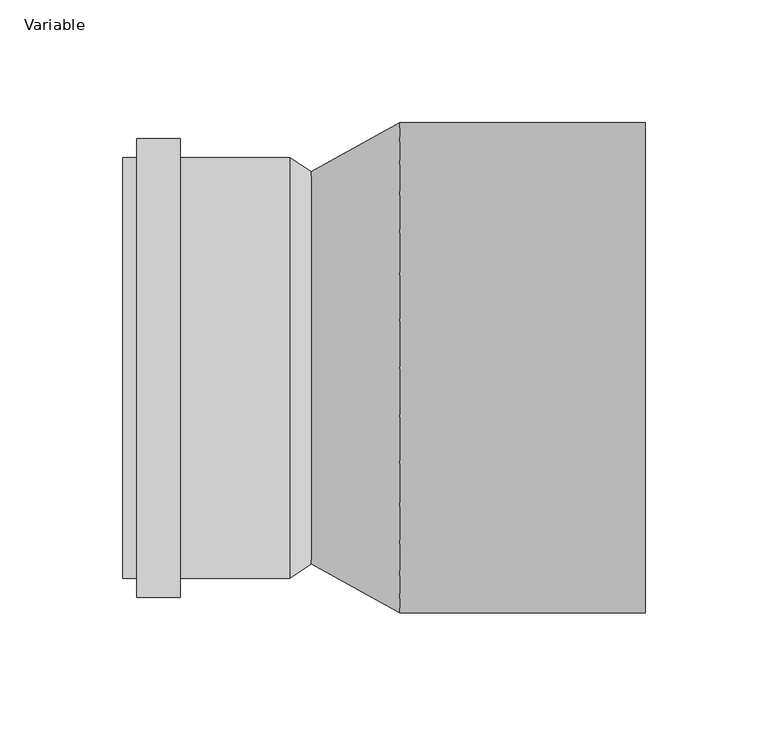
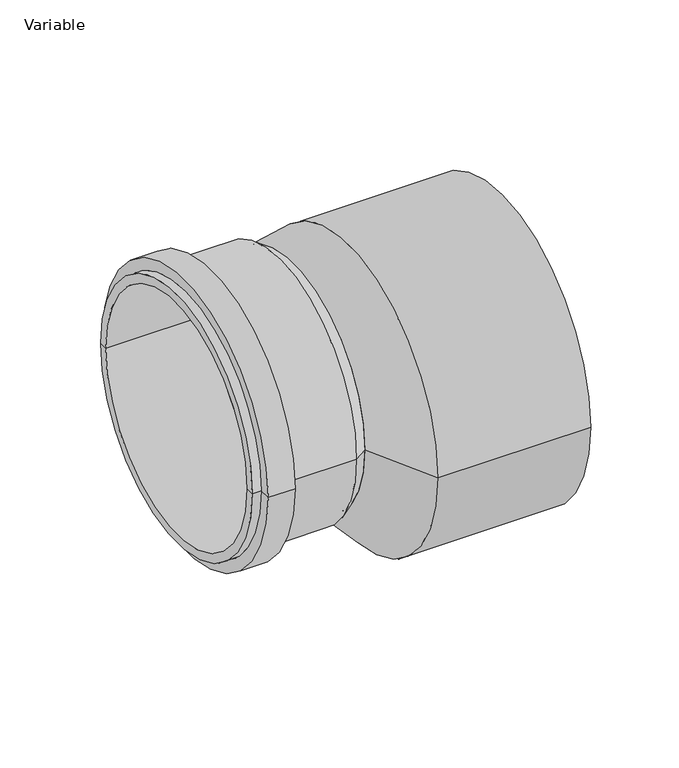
"""IFC4 building model written with IfcOpenShell, lengths in millimetres: pipe fitting geometry, AliaxisFR_Friaphon_Reducer_FR : Variable."""

import ifcopenshell
import ifcopenshell.guid

model = None  # the IFC model being written
_history = None  # IfcOwnerHistory: only IFC2X3 demands one
_inside = {}  # id of a spatial element -> (the spatial element, [elements in it])
_under = {}  # id of a project, library or spatial element -> (it, [spatial elements below it])
_declared = {}  # id of a project -> (the project, [libraries it declares])
_typed = {}  # id of a type object -> (the type object, [elements of that type])
_made_of = {}  # id of a material, layer set ... -> (it, [elements and type objects made of it])


def new_model(schema):
    """Start an empty IFC model of exactly this schema.

    Asked for "IFC4X3", IfcOpenShell would pick the latest addendum, in which some entities
    have other attributes; the version numbers below select the first issue.
    IFC2X3 requires an IfcOwnerHistory on every rooted entity: one is made here for all.
    """
    global model, _history
    if schema == "IFC4X3":
        model = ifcopenshell.file(schema_version=(4, 3, 0, 0))
    else:
        model = ifcopenshell.file(schema=schema)
    _inside.clear()
    _under.clear()
    _declared.clear()
    _typed.clear()
    _made_of.clear()
    _history = None
    if model.schema == "IFC2X3":
        org = make("IfcOrganization", Name="unknown")
        user = make(
            "IfcPersonAndOrganization",
            ThePerson=make("IfcPerson", FamilyName="unknown"),
            TheOrganization=org,
        )
        app = make(
            "IfcApplication",
            ApplicationDeveloper=org,
            Version="unknown",
            ApplicationFullName="unknown",
            ApplicationIdentifier="unknown",
        )
        _history = make(
            "IfcOwnerHistory",
            OwningUser=user,
            OwningApplication=app,
            ChangeAction="ADDED",
            CreationDate=0,
        )
    return model


def make(cls, **values):
    """One entity of the class cls with the attributes given. An attribute that is None is left unset."""
    return model.create_entity(
        cls, **{name: value for name, value in values.items() if value is not None}
    )


def rooted(cls, **values):
    """An entity with a GlobalId (a new one), such as an element, a storey or a relation."""
    return make(cls, GlobalId=ifcopenshell.guid.new(), OwnerHistory=_history, **values)


def si_unit(unit_type, name, prefix=None):
    """IfcSIUnit, for example si_unit("LENGTHUNIT", "METRE", prefix="MILLI")."""
    return make("IfcSIUnit", UnitType=unit_type, Prefix=prefix, Name=name)


def assignment(units):
    """IfcUnitAssignment: the units of a project."""
    return None if units is None else make("IfcUnitAssignment", Units=units)


def point(xyz):
    """IfcCartesianPoint."""
    return None if xyz is None else make("IfcCartesianPoint", Coordinates=xyz)


def direction(xyz):
    """IfcDirection."""
    return None if xyz is None else make("IfcDirection", DirectionRatios=xyz)


def frame(location, z_axis=None, x_axis=None):
    """IfcAxis2Placement3D, a coordinate frame: its origin and axes. An axis left out is left unset."""
    return make(
        "IfcAxis2Placement3D",
        Location=point(location),
        Axis=direction(z_axis),
        RefDirection=direction(x_axis),
    )


def frame_2d(location, x_axis=None):
    """IfcAxis2Placement2D, a coordinate frame in the plane: its origin and x axis."""
    return make(
        "IfcAxis2Placement2D", Location=point(location), RefDirection=direction(x_axis)
    )


def origin():
    """The frame at (0, 0, 0) with its axes left unset."""
    return frame((0.0, 0.0, 0.0))


def origin_2d():
    """The frame at (0, 0) in the plane with its x axis left unset."""
    return frame_2d((0.0, 0.0))


def place(relative_to, where):
    """IfcLocalPlacement: puts the frame where relative to a parent placement (None: the world)."""
    return make(
        "IfcLocalPlacement", PlacementRelTo=relative_to, RelativePlacement=where
    )


def context(
    kind, dimensions, precision=None, world=None, true_north=None, identifier=None
):
    """IfcGeometricRepresentationContext, for example the 3D "Model" context."""
    return make(
        "IfcGeometricRepresentationContext",
        ContextIdentifier=identifier,
        ContextType=kind,
        CoordinateSpaceDimension=dimensions,
        Precision=precision,
        WorldCoordinateSystem=world,
        TrueNorth=true_north,
    )


def project(units=None, contexts=None):
    """IfcProject with its units and contexts."""
    return rooted(
        "IfcProject",
        Name="project",
        RepresentationContexts=contexts,
        UnitsInContext=assignment(units),
    )


def spatial(cls, under=None, at=None, **own):
    """A site, building, storey or space (cls), placed at a placement, below another one or the project."""
    s = rooted(cls, ObjectPlacement=at, **own)
    if under is not None:
        _under.setdefault(under.id(), (under, []))[1].append(s)
    return s


def polyline(points):
    """IfcPolyline through the points."""
    return make("IfcPolyline", Points=[point(p) for p in points])


def circle_curve(where, radius):
    """IfcCircle in the frame where."""
    return make("IfcCircle", Position=where, Radius=radius)


def trimmed(basis, trim1, trim2, sense, master):
    """IfcTrimmedCurve: the piece of a basis curve between two trims."""
    return make(
        "IfcTrimmedCurve",
        BasisCurve=basis,
        Trim1=trim1,
        Trim2=trim2,
        SenseAgreement=sense,
        MasterRepresentation=master,
    )


def segment(curve, same_sense, transition):
    """IfcCompositeCurveSegment."""
    return make(
        "IfcCompositeCurveSegment",
        Transition=transition,
        SameSense=same_sense,
        ParentCurve=curve,
    )


def composite_curve(segments, self_intersect=None):
    """IfcCompositeCurve: segments joined end to end."""
    return make("IfcCompositeCurve", Segments=segments, SelfIntersect=self_intersect)


def outline(outer, holes=None, kind="AREA"):
    """IfcArbitraryClosedProfileDef: a profile drawn as a closed curve; with holes, ...WithVoids."""
    if holes is None:
        return make("IfcArbitraryClosedProfileDef", ProfileType=kind, OuterCurve=outer)
    return make(
        "IfcArbitraryProfileDefWithVoids",
        ProfileType=kind,
        OuterCurve=outer,
        InnerCurves=holes,
    )


def extrude(swept, where, along, depth):
    """IfcExtrudedAreaSolid: the profile swept, set in the frame where, extruded along a direction by depth."""
    return make(
        "IfcExtrudedAreaSolid",
        SweptArea=swept,
        Position=where,
        ExtrudedDirection=direction(along),
        Depth=depth,
    )


def shape(context_of_items, identifier, shape_type, items):
    """IfcShapeRepresentation: the items that make up one representation, for example the "Body"."""
    return make(
        "IfcShapeRepresentation",
        ContextOfItems=context_of_items,
        RepresentationIdentifier=identifier,
        RepresentationType=shape_type,
        Items=items,
    )


def source(mapping_origin, context_of_items, identifier, shape_type, items):
    """IfcRepresentationMap: a shape defined once, which mapped items show again and again."""
    return make(
        "IfcRepresentationMap",
        MappingOrigin=mapping_origin,
        MappedRepresentation=shape(context_of_items, identifier, shape_type, items),
    )


def transform(
    local_origin,
    x_axis=None,
    y_axis=None,
    z_axis=None,
    scale=None,
    scale2=None,
    scale3=None,
    uniform=True,
):
    """IfcCartesianTransformationOperator3D, or its non-uniform kind. x_axis, y_axis, z_axis: its Axis1, 2, 3."""
    if uniform:
        return make(
            "IfcCartesianTransformationOperator3D",
            Axis1=direction(x_axis),
            Axis2=direction(y_axis),
            LocalOrigin=point(local_origin),
            Scale=scale,
            Axis3=direction(z_axis),
        )
    return make(
        "IfcCartesianTransformationOperator3DnonUniform",
        Axis1=direction(x_axis),
        Axis2=direction(y_axis),
        LocalOrigin=point(local_origin),
        Scale=scale,
        Axis3=direction(z_axis),
        Scale2=scale2,
        Scale3=scale3,
    )


def mapped(mapping_source, mapping_target):
    """IfcMappedItem: shows the shape of a source again, moved by a transform."""
    return make(
        "IfcMappedItem", MappingSource=mapping_source, MappingTarget=mapping_target
    )


def made_of(thing, what):
    """Note that an element or type object is made of a material, layer set ...; save() writes the relation."""
    if what is not None:
        _made_of.setdefault(what.id(), (what, []))[1].append(thing)
    return thing


def element(
    cls,
    number,
    at=None,
    inside=None,
    cuts=None,
    type_object=None,
    material=None,
    context=None,
    identifier="Body",
    shape_type=None,
    held_by="IfcProductDefinitionShape",
    body=None,
    shapes=None,
    **own,
):
    """One element of the class cls, such as IfcWall. Its Tag is "e" and its number.

    at: its placement. inside: the storey or other place that contains it. cuts: it is an
    opening in that element (IfcRelVoidsElement). A single representation is given by context,
    identifier, shape_type and body (its items); several are given by shapes. held_by: the class
    of the entity that holds the representations. save() writes the other relations.
    """
    e = rooted(cls, Tag="e%d" % number, ObjectPlacement=at, **own)
    if body is not None:
        shapes = [shape(context, identifier, shape_type, body)]
    if shapes is not None:
        e.Representation = make(held_by, Representations=shapes)
    if inside is not None:
        _inside.setdefault(inside.id(), (inside, []))[1].append(e)
    if cuts is not None:
        rooted(
            "IfcRelVoidsElement", RelatingBuildingElement=cuts, RelatedOpeningElement=e
        )
    if type_object is not None:
        _typed.setdefault(type_object.id(), (type_object, []))[1].append(e)
    return made_of(e, material)


def aggregate(whole, parts):
    """IfcRelAggregates: a whole, such as a stair, and the parts it consists of."""
    return rooted("IfcRelAggregates", RelatingObject=whole, RelatedObjects=parts)


def save(model, path):
    """Write the relations noted so far, then the file.

    IfcRelAggregates (storeys below a building ...), IfcRelContainedInSpatialStructure (elements
    in a storey), IfcRelDefinesByType, IfcRelAssociatesMaterial and IfcRelDeclares: one each for
    every whole, place, type object, material and project.
    """
    for whole, parts in _under.values():
        aggregate(whole, parts)
    for where, things in _inside.values():
        rooted(
            "IfcRelContainedInSpatialStructure",
            RelatedElements=things,
            RelatingStructure=where,
        )
    for kind, things in _typed.values():
        rooted("IfcRelDefinesByType", RelatedObjects=things, RelatingType=kind)
    for what, things in _made_of.values():
        rooted("IfcRelAssociatesMaterial", RelatedObjects=things, RelatingMaterial=what)
    for by, libraries in _declared.values():
        rooted("IfcRelDeclares", RelatingContext=by, RelatedDefinitions=libraries)
    model.write(path)


def plane_surface(at):
    """IfcPlane: the flat surface through the origin of the frame at, square to its z axis."""
    return make("IfcPlane", Position=at)


def cylinder_surface(at, radius):
    """IfcCylindricalSurface: all points at the distance radius from the z axis of the frame at."""
    return make("IfcCylindricalSurface", Position=at, Radius=radius)


def revolved_surface(curve, axis_point, axis_direction):
    """IfcSurfaceOfRevolution: the curve turned about the line through axis_point along axis_direction."""
    return make(
        "IfcSurfaceOfRevolution",
        SweptCurve=make("IfcArbitraryOpenProfileDef", ProfileType="CURVE", Curve=curve),
        AxisPosition=make("IfcAxis1Placement", Location=point(axis_point), Axis=direction(axis_direction)),
    )


def spline_surface(u_degree, v_degree, points, u_multiplicities, v_multiplicities, u_knots, v_knots, weights=None):
    """IfcBSplineSurfaceWithKnots; with weights, IfcRationalBSplineSurfaceWithKnots. points: one row for each step in u."""
    own = dict(
        UDegree=u_degree,
        VDegree=v_degree,
        ControlPointsList=[[point(p) for p in row] for row in points],
        SurfaceForm="UNSPECIFIED",
        UClosed=False,
        VClosed=False,
        SelfIntersect=False,
        UMultiplicities=u_multiplicities,
        VMultiplicities=v_multiplicities,
        UKnots=u_knots,
        VKnots=v_knots,
        KnotSpec="UNSPECIFIED",
    )
    if weights is None:
        return make("IfcBSplineSurfaceWithKnots", **own)
    return make("IfcRationalBSplineSurfaceWithKnots", WeightsData=weights, **own)


def advanced_brep(points, edges, surfaces, faces):
    """IfcAdvancedBrep: a solid bounded by faces that lie on surfaces and meet in shared edges.

    An edge is (start, end): straight between two places in points (the first is 0);
    or (start, end, curve); or (start, end, curve, False) where it runs against its curve.
    A face is (place in surfaces, loops), or (place, loops, False) where it looks against
    its surface's normal. A loop lists edges by number (the first is 1), with a minus sign
    where the edge is run from its end to its start. The first loop is the outer one.
    """
    corners = [point(p) for p in points]
    vertices = [make("IfcVertexPoint", VertexGeometry=c) for c in corners]
    made = []
    for start, end, *more in edges:
        made.append(
            make(
                "IfcEdgeCurve",
                EdgeStart=vertices[start],
                EdgeEnd=vertices[end],
                EdgeGeometry=more[0] if more else make("IfcPolyline", Points=[corners[start], corners[end]]),
                SameSense=more[1] if len(more) > 1 else True,
            )
        )
    hull = []
    for where, loops, *sense in faces:
        bounds = []
        for j, loop in enumerate(loops):
            ring = [make("IfcOrientedEdge", EdgeElement=made[abs(k) - 1], Orientation=k > 0) for k in loop]
            bounds.append(
                make(
                    "IfcFaceOuterBound" if j == 0 else "IfcFaceBound",
                    Bound=make("IfcEdgeLoop", EdgeList=ring),
                    Orientation=True,
                )
            )
        hull.append(make("IfcAdvancedFace", Bounds=bounds, FaceSurface=surfaces[where], SameSense=sense[0] if sense else True))
    return make("IfcAdvancedBrep", Outer=make("IfcClosedShell", CfsFaces=hull))


def variable_babedaa3(model_context):
    return source(origin(), model_context, "Body", "SolidModel", [
        advanced_brep(
        [(-142.0, -85.8, 0.0), (-142.0, 85.8, 0.0), (-142.0, 80.0, 0.0), (-142.0, -80.0, 0.0), (-118.5, -93.5, 0.0), (-118.5, 93.5, 0.0), (-136.2, 93.5, 0.0), (-136.2, -93.5, 0.0), (-118.5, -85.8, 0.0), (-118.5, 85.8, 0.0), (-73.9, -85.8, 0.0), (-73.9, 85.8, 0.0), (-65.2, 80.0, 0.0), (-65.2, -80.0, 0.0), (-136.2, -85.8, 0.0), (-136.2, 85.8, 0.0)],
        [
            (0, 1, circle_curve(frame((-142.0, 0.0, 0.0), z_axis=(-1.0, 0.0, 0.0), x_axis=(0.0, 1.0, 0.0)), 85.8)),
            (1, 2),
            (2, 3, circle_curve(frame((-142.0, 0.0, 0.0), z_axis=(1.0, 0.0, 0.0), x_axis=(0.0, 1.0, 0.0)), 80.0)),
            (3, 0),
            (1, 0, circle_curve(frame((-142.0, 0.0, 0.0), z_axis=(-1.0, 0.0, 0.0), x_axis=(0.0, 1.0, 0.0)), 85.8)),
            (3, 2, circle_curve(frame((-142.0, 0.0, 0.0), z_axis=(1.0, 0.0, 0.0), x_axis=(0.0, 1.0, 0.0)), 80.0)),
            (4, 5, circle_curve(frame((-118.5, 0.0, 0.0), z_axis=(-1.0, 0.0, 0.0), x_axis=(0.0, 1.0, 0.0)), 93.5)),
            (5, 6),
            (6, 7, circle_curve(frame((-136.2, 0.0, 0.0), z_axis=(1.0, 0.0, 0.0), x_axis=(0.0, 1.0, 0.0)), 93.5)),
            (7, 4),
            (5, 4, circle_curve(frame((-118.5, 0.0, 0.0), z_axis=(-1.0, 0.0, 0.0), x_axis=(0.0, 1.0, 0.0)), 93.5)),
            (7, 6, circle_curve(frame((-136.2, 0.0, 0.0), z_axis=(1.0, 0.0, 0.0), x_axis=(0.0, 1.0, 0.0)), 93.5)),
            (8, 9, circle_curve(frame((-118.5, 0.0, 0.0), z_axis=(-1.0, 0.0, 0.0), x_axis=(0.0, 1.0, 0.0)), 85.8)),
            (9, 5),
            (4, 8),
            (9, 8, circle_curve(frame((-118.5, 0.0, 0.0), z_axis=(-1.0, 0.0, 0.0), x_axis=(0.0, 1.0, 0.0)), 85.8)),
            (10, 11, circle_curve(frame((-73.9, 0.0, 0.0), z_axis=(-1.0, 0.0, 0.0), x_axis=(0.0, 1.0, 0.0)), 85.8)),
            (11, 9),
            (8, 10),
            (11, 10, circle_curve(frame((-73.9, 0.0, 0.0), z_axis=(-1.0, 0.0, 0.0), x_axis=(0.0, 1.0, 0.0)), 85.8)),
            (2, 12),
            (12, 13, circle_curve(frame((-65.2, 0.0, 0.0), z_axis=(1.0, 0.0, 0.0), x_axis=(0.0, 1.0, 0.0)), 80.0)),
            (13, 3),
            (13, 12, circle_curve(frame((-65.2, 0.0, 0.0), z_axis=(1.0, 0.0, 0.0), x_axis=(0.0, 1.0, 0.0)), 80.0)),
            (12, 11),
            (10, 13),
            (14, 15, circle_curve(frame((-136.2, 0.0, 0.0), z_axis=(-1.0, 0.0, 0.0), x_axis=(0.0, 1.0, 0.0)), 85.8)),
            (15, 1),
            (0, 14),
            (15, 14, circle_curve(frame((-136.2, 0.0, 0.0), z_axis=(-1.0, 0.0, 0.0), x_axis=(0.0, 1.0, 0.0)), 85.8)),
            (6, 15),
            (14, 7),
        ],
        [
            plane_surface(frame((-142.0, 0.0, 0.0), z_axis=(-1.0, 0.0, 0.0), x_axis=(0.0, 1.0, 0.0))),
            cylinder_surface(frame((-65.2, 0.0, 0.0), z_axis=(1.0, 0.0, 0.0), x_axis=(0.0, 1.0, 0.0)), 93.5),
            plane_surface(frame((-118.5, 0.0, 0.0), z_axis=(1.0, 0.0, 0.0), x_axis=(0.0, 1.0, 0.0))),
            cylinder_surface(frame((-65.2, 0.0, 0.0), z_axis=(1.0, 0.0, 0.0), x_axis=(0.0, 1.0, 0.0)), 85.8),
            revolved_surface(polyline([(-65.2, 80.0, 0.0), (-142.0, 80.0, 0.0)]), (-65.2, 0.0, 0.0), (1.0, 0.0, 0.0)),
            revolved_surface(polyline([(-73.9, 85.8, 0.0), (-65.2, 80.0, 0.0)]), (-65.2, 0.0, 0.0), (1.0, 0.0, 0.0)),
            plane_surface(frame((-136.2, 0.0, 0.0), z_axis=(-1.0, 0.0, 0.0), x_axis=(0.0, 1.0, 0.0))),
        ],
        [
            (0, [[1, 2, 3, 4]]),
            (0, [[5, -4, 6, -2]]),
            (1, [[7, 8, 9, 10]]),
            (1, [[11, -10, 12, -8]]),
            (2, [[13, 14, -7, 15]]),
            (2, [[16, -15, -11, -14]]),
            (3, [[17, 18, -13, 19]]),
            (3, [[20, -19, -16, -18]]),
            (4, [[-3, 21, 22, 23]]),
            (4, [[-6, -23, 24, -21]]),
            (5, [[-22, 25, -17, 26]]),
            (5, [[-24, -26, -20, -25]]),
            (3, [[27, 28, -1, 29]]),
            (3, [[30, -29, -5, -28]]),
            (6, [[-9, 31, -27, 32]]),
            (6, [[-12, -32, -30, -31]]),
        ],
    ),
        extrude(outline(composite_curve([segment(trimmed(circle_curve(origin_2d(), 80.0), [point((-80.0, 0.0))], [point((80.0, 0.0))], False, "CARTESIAN"), True, "CONTINUOUS"), segment(trimmed(circle_curve(origin_2d(), 80.0), [point((80.0, 0.0))], [point((-80.0, 0.0))], False, "CARTESIAN"), True, "CONTINUOUS")], self_intersect=False)), frame((-71.0, 0.0, 0.0), z_axis=(1.0, 0.0, 0.0), x_axis=(0.0, 1.0, 0.0)), (0.0, 0.0, 1.0), 5.8),
        advanced_brep(
        [(-65.2, -80.0, 0.0), (-65.2, 80.0, 0.0), (-29.0, -100.0, -20.0), (-29.0, 100.0, -20.0)],
        [
            (0, 1, circle_curve(frame((-65.2, 0.0, 0.0), z_axis=(-1.0, 0.0, 0.0), x_axis=(0.0, 1.0, 0.0)), 80.0)),
            (1, 0, circle_curve(frame((-65.2, 0.0, 0.0), z_axis=(-1.0, 0.0, 0.0), x_axis=(0.0, 1.0, 0.0)), 80.0)),
            (2, 3, circle_curve(frame((-29.0, 0.0, -20.0), z_axis=(1.0, 0.0, 0.0), x_axis=(0.0, 1.0, 0.0)), 100.0)),
            (3, 2, circle_curve(frame((-29.0, 0.0, -20.0), z_axis=(1.0, 0.0, 0.0), x_axis=(0.0, 1.0, 0.0)), 100.0)),
            (3, 1),
            (0, 2),
        ],
        [
            plane_surface(frame((-65.2, 0.0, 0.0), z_axis=(-1.0, 0.0, 0.0), x_axis=(0.0, 0.0, 1.0))),
            plane_surface(frame((-29.0, 0.0, -20.0), z_axis=(1.0, 0.0, 0.0), x_axis=(0.0, 0.0, 1.0))),
            spline_surface(2, 1, [[(-29.0, -100.0, -20.0), (-65.2, -80.0, 0.0)], [(-29.0, -100.0, 80.0), (-65.2, -80.0, 80.0)], [(-29.0, 0.0, 80.0), (-65.2, 0.0, 80.0)], [(-29.0, 100.0, 80.0), (-65.2, 80.0, 80.0)], [(-29.0, 100.0, -20.0), (-65.2, 80.0, 0.0)]], [3, 2, 3], [2, 2], [0.0, 1.0, 2.0], [0.0, 1.0], weights=[[1.0, 1.0], [0.7071067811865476, 0.7071067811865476], [1.0, 1.0], [0.7071067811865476, 0.7071067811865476], [1.0, 1.0]]),
            spline_surface(2, 1, [[(-29.0, 100.0, -20.0), (-65.2, 80.0, 0.0)], [(-29.0, 100.0, -120.0), (-65.2, 80.0, -80.0)], [(-29.0, 0.0, -120.0), (-65.2, 0.0, -80.0)], [(-29.0, -100.0, -120.0), (-65.2, -80.0, -80.0)], [(-29.0, -100.0, -20.0), (-65.2, -80.0, 0.0)]], [3, 2, 3], [2, 2], [0.0, 1.0, 2.0], [0.0, 1.0], weights=[[1.0, 1.0], [0.7071067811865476, 0.7071067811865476], [1.0, 1.0], [0.7071067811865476, 0.7071067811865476], [1.0, 1.0]]),
        ],
        [
            (0, [[1, 2]]),
            (1, [[3, 4]]),
            (2, [[-4, 5, -1, 6]]),
            (3, [[-3, -6, -2, -5]]),
        ],
    ),
        extrude(outline(composite_curve([segment(trimmed(circle_curve(frame_2d((0.0, -20.0)), 100.0), [point((-100.0, -20.0))], [point((100.0, -20.0))], False, "CARTESIAN"), True, "CONTINUOUS"), segment(trimmed(circle_curve(frame_2d((0.0, -20.0)), 100.0), [point((100.0, -20.0))], [point((-100.0, -20.0))], False, "CARTESIAN"), True, "CONTINUOUS")], self_intersect=False)), frame((-29.0, 0.0, 0.0), z_axis=(1.0, 0.0, 0.0), x_axis=(0.0, 1.0, 0.0)), (0.0, 0.0, 1.0), 100.0),
    ])


if __name__ == "__main__":
    model = new_model("IFC4")
    model_context = context("Model", 3, world=origin())
    ifc_project = project(units=[si_unit("LENGTHUNIT", "METRE", prefix="MILLI")], contexts=[model_context])
    site = spatial("IfcSite", under=ifc_project)
    building = spatial("IfcBuilding", under=site)
    placement = place(None, origin())
    variable_shape = variable_babedaa3(model_context)
    element("IfcPipeFitting", 1, ObjectType="AliaxisFR_Friaphon_Reducer_FR : Variable", at=placement, inside=building, context=model_context, shape_type="MappedRepresentation", body=[
        mapped(variable_shape, transform((0.0, 0.0, 0.0), x_axis=(1.0, 0.0, 0.0), y_axis=(0.0, 1.0, 0.0), z_axis=(0.0, 0.0, 1.0))),
    ])
    save(model, "model.ifc")
